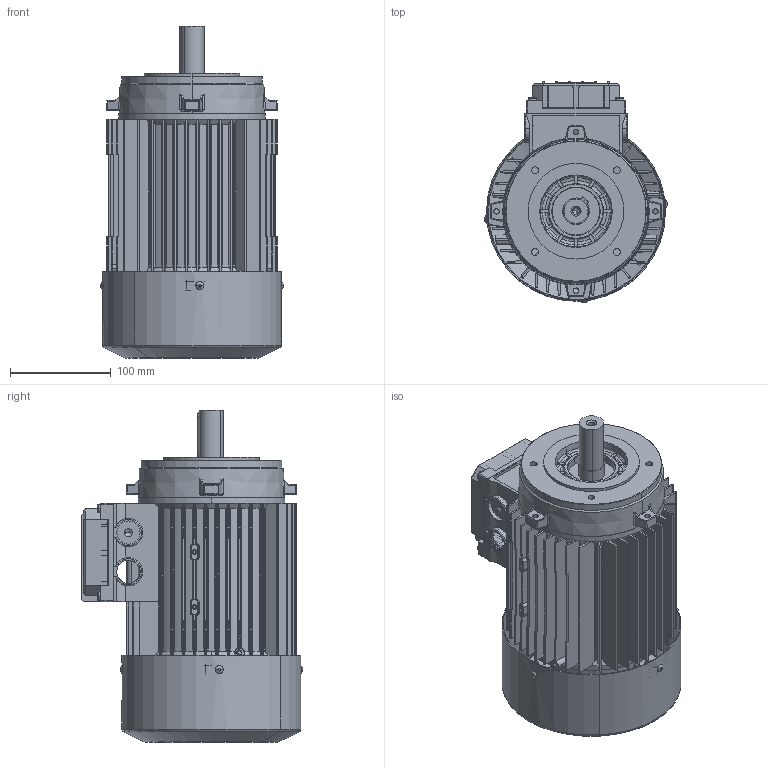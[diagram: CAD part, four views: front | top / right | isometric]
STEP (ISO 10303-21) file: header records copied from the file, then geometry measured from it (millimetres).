
FILE_DESCRIPTION (( 'STEP AP214' ), '1' );
FILE_NAME ('SM 90 L B14.STEP', '2017-09-28T12:56:31', ( '' ), ( '' ), 'SwSTEP 2.0', 'SolidWorks 2017', '' );
FILE_SCHEMA (( 'AUTOMOTIVE_DESIGN' ));
Length unit declared in the file: millimetre
Products named in the file (12): SM 90 L B14; Ventola BM 90; Chiavetta 90; Albero SM 90 L; Vite testa rotonda M3; Cuffia SM 90; Coperchio per Scatola Singola 90 - 100 - 112 con viti; Vite  a testa bombata M4x16; Coperchio per Scatola Singola 90 - 100 - 112; Scudo Lato Comando B3 BA-BM 90 - DDAD0094; Scudo a flangia B14 BA-BM 90 - DDAC0094; Carcassa 90 L B5
Assembly tree (17 placements, depth 3):
  SM 90 L B14
    Carcassa 90 L B5
    Scudo a flangia B14 BA-BM 90 - DDAC0094
    Scudo Lato Comando B3 BA-BM 90 - DDAD0094
    Coperchio per Scatola Singola 90 - 100 - 112 con viti
      Coperchio per Scatola Singola 90 - 100 - 112
      Vite  a testa bombata M4x16  x4
    Cuffia SM 90
    Vite testa rotonda M3  x4
    Albero SM 90 L
    Chiavetta 90
    Ventola BM 90
Bounding box: 181.66 x 220.33 x 330 mm (x, y, z)
Volume: 1177294.9 mm3; surface area: 739928.2 mm2
Topology: 16 solids, 16 shells, 3990 faces, 10870 edges, 6942 vertices
Faces by surface type: plane 1503, cylinder 1294, bspline 436, torus 376, cone 371, sphere 10
Entity records: 141080 total; most frequent: CARTESIAN_POINT 51721, ORIENTED_EDGE 20030, DIRECTION 16753, EDGE_CURVE 10015, VERTEX_POINT 6438, AXIS2_PLACEMENT_3D 6299, LINE 4155, VECTOR 4155
